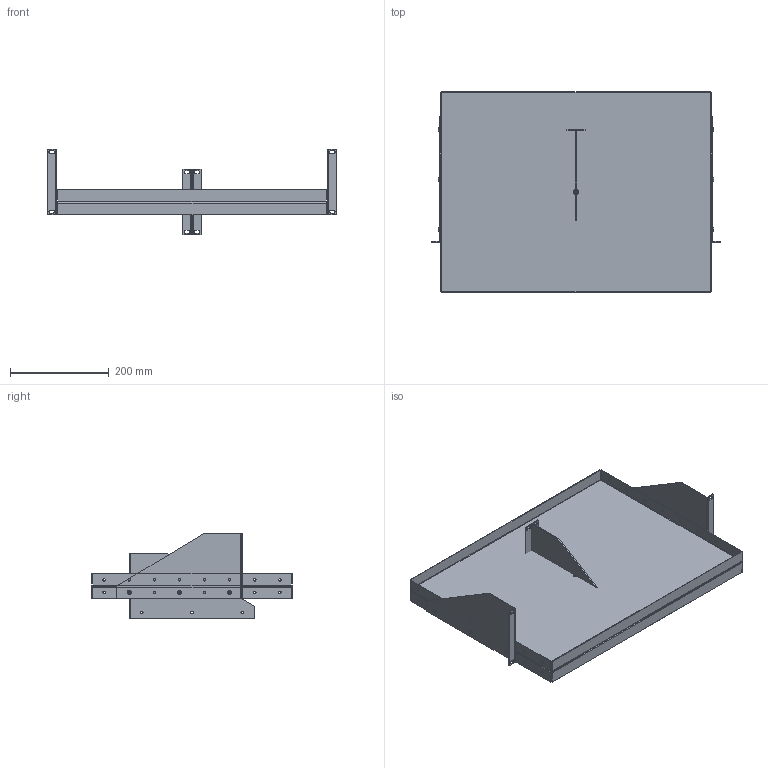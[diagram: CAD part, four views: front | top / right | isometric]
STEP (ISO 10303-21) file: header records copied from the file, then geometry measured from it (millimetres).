
FILE_DESCRIPTION( ( 'Unknown' ), '1' );
FILE_NAME( 'Q:/ACCESSORIES/SHELVES/DNR/WEB DRAWINGS/STEP/DNRMA2316.stp', 'Unknown', ( 'Unknown' ), ( 'Unknown' ), 'PSStep 10.1', 'Unknown', ' ' );
FILE_SCHEMA( ( 'AUTOMOTIVE_DESIGN { 1 0 10303 214 1 1 1 1 }' ) );
Length unit declared in the file: millimetre
Products named in the file (6): Assem1; COM54794; COM54795; COM54792; NTS16450; SCS18603
Bounding box: 584.2 x 406.4 x 173.41 mm (x, y, z)
Volume: 965320.5 mm3; surface area: 1291037.3 mm2
Topology: 20 solids, 20 shells, 474 faces, 1128 edges, 701 vertices
Faces by surface type: plane 313, cylinder 112, cone 42, bspline 7
Full cylindrical faces by diameter (mm): 3.307 x7, 4.166 x7, 4.978 x44, 7.798 x7, 9.347 x7
Entity records: 4660 total; most frequent: CARTESIAN_POINT 813, DIRECTION 680, ORIENTED_EDGE 598, EDGE_CURVE 299, AXIS2_PLACEMENT_3D 256, EDGE_LOOP 214, VERTEX_POINT 205, LINE 168
